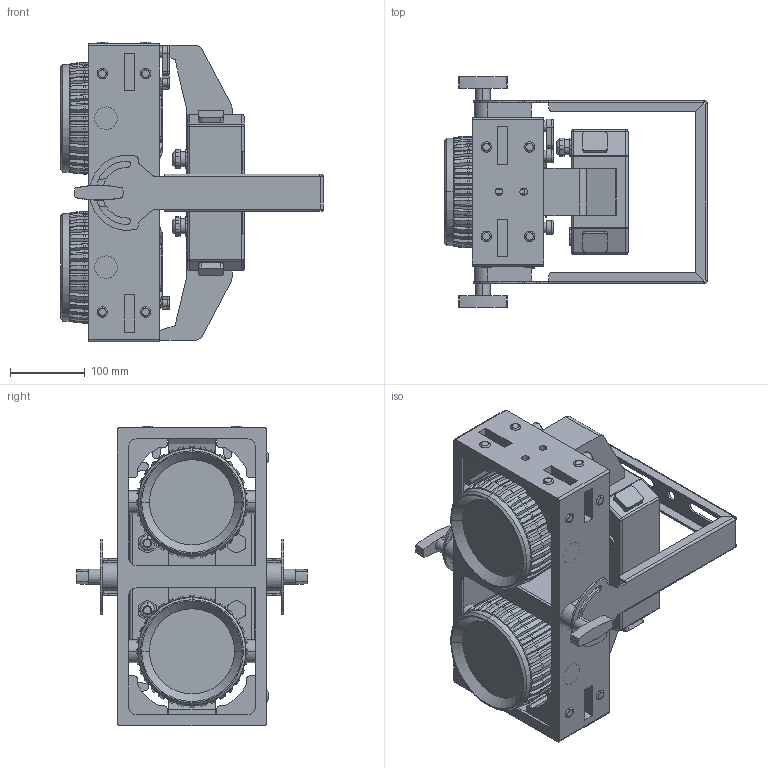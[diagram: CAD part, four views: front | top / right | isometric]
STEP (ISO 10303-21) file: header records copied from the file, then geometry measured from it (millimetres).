
FILE_DESCRIPTION((''),'2;1');
FILE_NAME('GLP-22009_ASM','2025-04-24T13:54:18',('LeovomKolke'),(''),'CREO PARAMETRIC BY PTC INC, 2024133','CREO PARAMETRIC BY PTC INC, 2024133','');
FILE_SCHEMA(('AUTOMOTIVE_DESIGN { 1 0 10303 214 1 1 1 1 }'));
Products named in the file (6): GLP-17201; GLP-17203; GLP-17207; GLP-17204; GLP-22008_ASM; GLP-22009_ASM
Assembly tree (7 placements, depth 3):
  GLP-22009_ASM
    GLP-17201
    GLP-22008_ASM
      GLP-17203  x2
      GLP-17207
      GLP-17204  x2
Bounding box: 352.5 x 309 x 402 mm (x, y, z)
Volume: 8719838.7 mm3; surface area: 995003.6 mm2
Topology: 10 solids, 10 shells, 2793 faces, 7422 edges, 4791 vertices
Faces by surface type: plane 1907, cylinder 550, torus 160, cone 84, bspline 68, sphere 16, revolution 8
Entity records: 95584 total; most frequent: CARTESIAN_POINT 20715, ORIENTED_EDGE 14680, DIRECTION 13780, EDGE_CURVE 7340, VECTOR 5093, LINE 5093, VERTEX_POINT 4716, AXIS2_PLACEMENT_3D 4331
